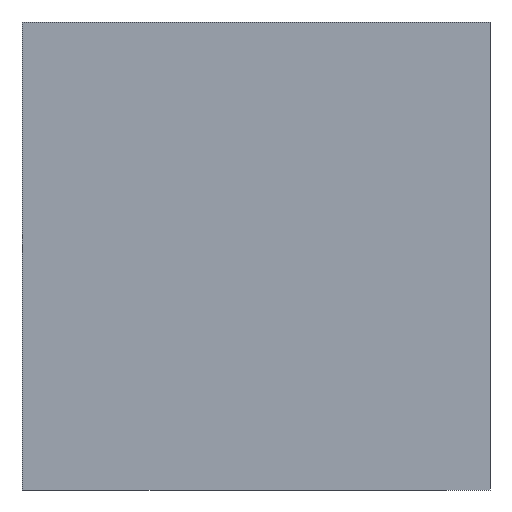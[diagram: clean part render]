
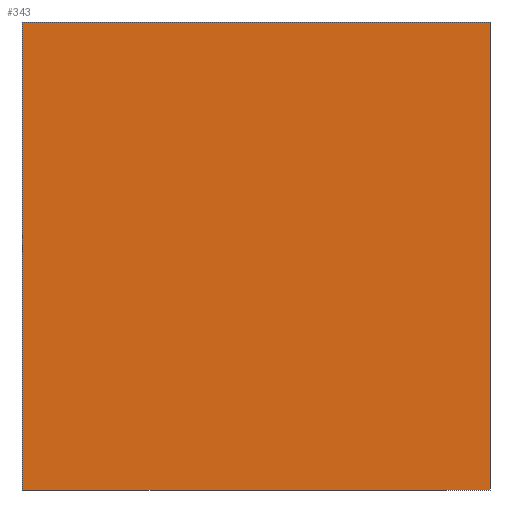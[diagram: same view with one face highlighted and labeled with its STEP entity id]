
A CAD part, left-side view. The second image highlights one B-rep face of the part: STEP entity #343.
In plain terms, the highlighted planar face has unit normal (-1, 0, 0).
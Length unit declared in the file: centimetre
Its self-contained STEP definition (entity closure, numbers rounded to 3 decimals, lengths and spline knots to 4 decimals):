
#2 = DIRECTION ( 'NONE',  ( 0., 0., -1. ) ) ;
#149 = EDGE_CURVE ( 'NONE', #273, #882, #207, .T. ) ;
#150 = FACE_OUTER_BOUND ( 'NONE', #650, .T. ) ;
#165 = DIRECTION ( 'NONE',  ( 0., 0., -1. ) ) ;
#207 = LINE ( 'NONE', #221, #896 ) ;
#221 = CARTESIAN_POINT ( 'NONE',  ( 0., 1000., 0. ) ) ;
#241 = CARTESIAN_POINT ( 'NONE',  ( 0., 1000., 1000. ) ) ;
#273 = VERTEX_POINT ( 'NONE', #857 ) ;
#297 = EDGE_CURVE ( 'NONE', #478, #882, #768, .T. ) ;
#333 = AXIS2_PLACEMENT_3D ( 'NONE', #241, #863, #2 ) ;
#334 = CARTESIAN_POINT ( 'NONE',  ( 0., 0., 1000. ) ) ;
#343 = ADVANCED_FACE ( 'NONE', ( #150 ), #503, .F. ) ;
#381 = ORIENTED_EDGE ( 'NONE', *, *, #697, .F. ) ;
#384 = DIRECTION ( 'NONE',  ( 0., -1., 0. ) ) ;
#399 = CARTESIAN_POINT ( 'NONE',  ( 0., 1000., 1000. ) ) ;
#422 = CARTESIAN_POINT ( 'NONE',  ( 0., 1000., 1000. ) ) ;
#439 = ORIENTED_EDGE ( 'NONE', *, *, #789, .T. ) ;
#478 = VERTEX_POINT ( 'NONE', #901 ) ;
#503 = PLANE ( 'NONE',  #333 ) ;
#597 = CARTESIAN_POINT ( 'NONE',  ( 0., 0., 0. ) ) ;
#600 = DIRECTION ( 'NONE',  ( 0., 0., -1. ) ) ;
#616 = ORIENTED_EDGE ( 'NONE', *, *, #149, .T. ) ;
#642 = DIRECTION ( 'NONE',  ( 0., -1., 0. ) ) ;
#650 = EDGE_LOOP ( 'NONE', ( #616, #925, #381, #439 ) ) ;
#697 = EDGE_CURVE ( 'NONE', #862, #478, #1099, .T. ) ;
#768 = LINE ( 'NONE', #334, #860 ) ;
#775 = CARTESIAN_POINT ( 'NONE',  ( 0., 1000., 1000. ) ) ;
#789 = EDGE_CURVE ( 'NONE', #862, #273, #851, .T. ) ;
#799 = VECTOR ( 'NONE', #600, 100. ) ;
#851 = LINE ( 'NONE', #775, #799 ) ;
#857 = CARTESIAN_POINT ( 'NONE',  ( 0., 1000., 0. ) ) ;
#860 = VECTOR ( 'NONE', #165, 100. ) ;
#862 = VERTEX_POINT ( 'NONE', #422 ) ;
#863 = DIRECTION ( 'NONE',  ( 1., 0., 0. ) ) ;
#882 = VERTEX_POINT ( 'NONE', #597 ) ;
#896 = VECTOR ( 'NONE', #384, 100. ) ;
#901 = CARTESIAN_POINT ( 'NONE',  ( 0., 0., 1000. ) ) ;
#925 = ORIENTED_EDGE ( 'NONE', *, *, #297, .F. ) ;
#1099 = LINE ( 'NONE', #399, #1105 ) ;
#1105 = VECTOR ( 'NONE', #642, 100. ) ;
